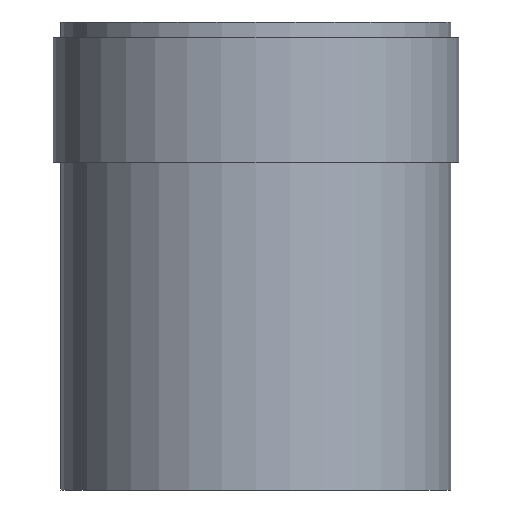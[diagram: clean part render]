
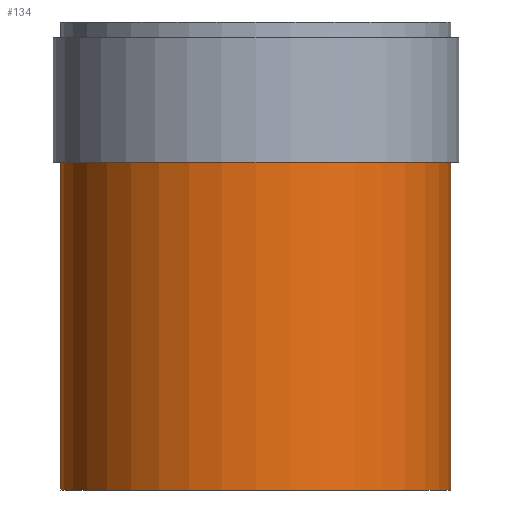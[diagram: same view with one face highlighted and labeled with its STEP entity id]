
A CAD part, front view. The second image highlights one B-rep face of the part: STEP entity #134.
In plain terms, the highlighted cylindrical face has radius 25 mm (diameter 50 mm), a full revolution.
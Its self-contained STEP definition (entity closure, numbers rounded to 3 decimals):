
#24=CYLINDRICAL_SURFACE($,#158,25.);
#35=FACE_BOUND($,#65,.T.);
#47=FACE_OUTER_BOUND($,#64,.T.);
#64=EDGE_LOOP($,(#119));
#65=EDGE_LOOP($,(#120));
#76=CIRCLE($,#151,25.);
#80=CIRCLE($,#159,25.);
#87=VERTEX_POINT($,#226);
#91=VERTEX_POINT($,#238);
#98=EDGE_CURVE($,#87,#87,#76,.T.);
#102=EDGE_CURVE($,#91,#91,#80,.T.);
#119=ORIENTED_EDGE($,*,*,#98,.T.);
#120=ORIENTED_EDGE($,*,*,#102,.F.);
#134=ADVANCED_FACE($,(#47,#35),#24,.T.);
#151=AXIS2_PLACEMENT_3D($,#227,#186,#187);
#158=AXIS2_PLACEMENT_3D($,#237,#200,#201);
#159=AXIS2_PLACEMENT_3D($,#239,#202,#203);
#186=DIRECTION('center_axis',(0.,0.,-1.));
#187=DIRECTION('ref_axis',(-1.,0.,0.));
#200=DIRECTION('center_axis',(0.,0.,1.));
#201=DIRECTION('ref_axis',(-1.,0.,0.));
#202=DIRECTION('center_axis',(0.,0.,-1.));
#203=DIRECTION('ref_axis',(-1.,0.,0.));
#226=CARTESIAN_POINT('',(-25.,0.,42.));
#227=CARTESIAN_POINT('Origin',(0.,0.,42.));
#237=CARTESIAN_POINT('Origin',(0.,0.,0.));
#238=CARTESIAN_POINT('',(25.,0.,0.));
#239=CARTESIAN_POINT('Origin',(0.,0.,0.));
